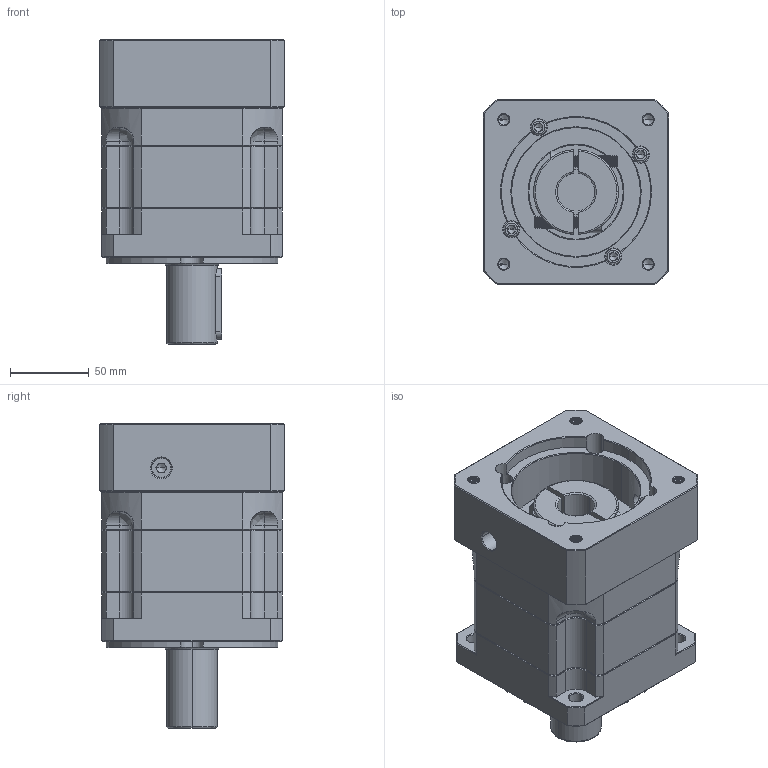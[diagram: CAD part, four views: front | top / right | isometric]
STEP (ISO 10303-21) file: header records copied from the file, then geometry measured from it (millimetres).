
FILE_DESCRIPTION (( 'STEP AP214' ), '1' );
FILE_NAME ('ZB115A-D32-L1-24-95-130-M8.step', '2023-03-02T09:00:25', ( '' ), ( 'Microsoft' ), 'SwSTEP 2.0', 'SolidWorks 2016', '' );
FILE_SCHEMA (( 'AUTOMOTIVE_DESIGN' ));
Length unit declared in the file: millimetre
Products named in the file (1): ZB115A-D32-L1-24-95-130-M8
Bounding box: 118 x 118 x 193.5 mm (x, y, z)
Volume: 1577733 mm3; surface area: 170161.7 mm2
Topology: 6 solids, 6 shells, 2124 faces, 5499 edges, 3466 vertices
Faces by surface type: plane 964, cylinder 444, cone 371, bspline 325, torus 20
Entity records: 113937 total; most frequent: CARTESIAN_POINT 41617, ORIENTED_EDGE 10930, DIRECTION 8975, EDGE_CURVE 5465, VERTEX_POINT 3466, VECTOR 3381, LINE 3381, AXIS2_PLACEMENT_3D 2797
